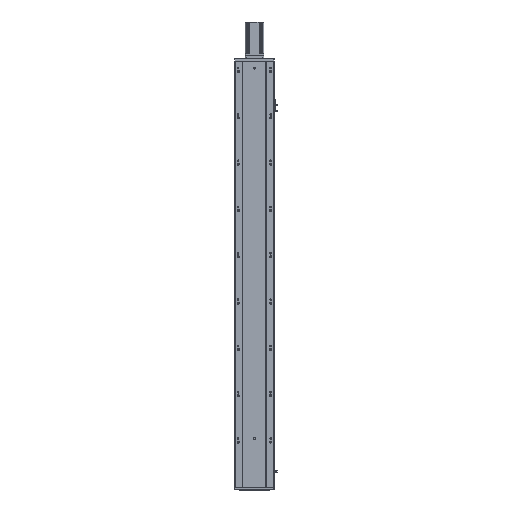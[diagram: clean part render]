
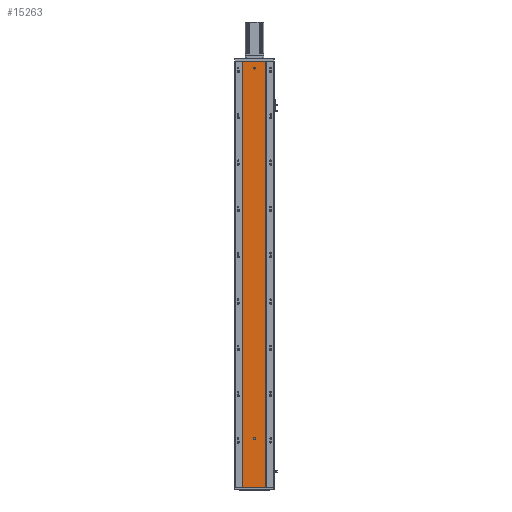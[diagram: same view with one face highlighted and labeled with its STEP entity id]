
A CAD part, front view. The second image highlights one B-rep face of the part: STEP entity #15263.
In plain terms, the highlighted planar face has unit normal (0, -1, 0).
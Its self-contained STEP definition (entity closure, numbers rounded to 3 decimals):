
#11461 = FACE_BOUND ( 'NONE', #25141, .T. ) ;
#11462 = FACE_OUTER_BOUND ( 'NONE', #25145, .T. ) ;
#11505 = FACE_BOUND ( 'NONE', #25086, .T. ) ;
#12235 = CARTESIAN_POINT ( 'NONE',  ( 86.97, 79.476, 1840. ) ) ;
#12675 = CARTESIAN_POINT ( 'NONE',  ( 136.47, 79.476, 1814. ) ) ;
#12686 = CARTESIAN_POINT ( 'NONE',  ( 136.47, 79.476, 206. ) ) ;
#12695 = CARTESIAN_POINT ( 'NONE',  ( 136.47, 79.476, 214. ) ) ;
#12703 = CARTESIAN_POINT ( 'NONE',  ( 136.47, 79.476, 1806. ) ) ;
#15263 = ADVANCED_FACE ( 'NONE', ( #11505, #11461, #11462 ), #41777, .F. ) ;
#15423 = VERTEX_POINT ( 'NONE', #42286 ) ;
#15426 = VERTEX_POINT ( 'NONE', #42368 ) ;
#15461 = VERTEX_POINT ( 'NONE', #42344 ) ;
#21640 = ORIENTED_EDGE ( 'NONE', *, *, #45239, .F. ) ;
#21648 = ORIENTED_EDGE ( 'NONE', *, *, #45173, .F. ) ;
#21652 = ORIENTED_EDGE ( 'NONE', *, *, #45236, .T. ) ;
#21665 = ORIENTED_EDGE ( 'NONE', *, *, #45186, .T. ) ;
#21678 = ORIENTED_EDGE ( 'NONE', *, *, #45197, .F. ) ;
#21696 = ORIENTED_EDGE ( 'NONE', *, *, #43872, .F. ) ;
#21700 = ORIENTED_EDGE ( 'NONE', *, *, #43850, .F. ) ;
#21702 = ORIENTED_EDGE ( 'NONE', *, *, #45161, .F. ) ;
#22483 = AXIS2_PLACEMENT_3D ( 'NONE', #48147, #48156, #48141 ) ;
#22486 = AXIS2_PLACEMENT_3D ( 'NONE', #48269, #48192, #48251 ) ;
#23113 = AXIS2_PLACEMENT_3D ( 'NONE', #54058, #54052, #54073 ) ;
#23126 = AXIS2_PLACEMENT_3D ( 'NONE', #54065, #54071, #54074 ) ;
#23907 = AXIS2_PLACEMENT_3D ( 'NONE', #41808, #41775, #41779 ) ;
#25086 = EDGE_LOOP ( 'NONE', ( #21702, #21700 ) ) ;
#25141 = EDGE_LOOP ( 'NONE', ( #21648, #21696 ) ) ;
#25145 = EDGE_LOOP ( 'NONE', ( #21652, #21678, #21640, #21665 ) ) ;
#25555 = VERTEX_POINT ( 'NONE', #12235 ) ;
#27176 = VERTEX_POINT ( 'NONE', #12675 ) ;
#27179 = VERTEX_POINT ( 'NONE', #12703 ) ;
#27188 = VERTEX_POINT ( 'NONE', #12695 ) ;
#27210 = VERTEX_POINT ( 'NONE', #12686 ) ;
#32275 = CIRCLE ( 'NONE', #23126, 4. ) ;
#32290 = CIRCLE ( 'NONE', #23113, 4. ) ;
#32401 = VECTOR ( 'NONE', #54249, 1000. ) ;
#32415 = LINE ( 'NONE', #54253, #32453 ) ;
#32435 = LINE ( 'NONE', #54242, #32401 ) ;
#32453 = VECTOR ( 'NONE', #54257, 1000. ) ;
#40639 = CIRCLE ( 'NONE', #22483, 4. ) ;
#40707 = CIRCLE ( 'NONE', #22486, 4. ) ;
#41775 = DIRECTION ( 'NONE',  ( 0., 1., 0. ) ) ;
#41777 = PLANE ( 'NONE',  #23907 ) ;
#41779 = DIRECTION ( 'NONE',  ( 0., 0., 1. ) ) ;
#41808 = CARTESIAN_POINT ( 'NONE',  ( 0., 79.476, 1840. ) ) ;
#42286 = CARTESIAN_POINT ( 'NONE',  ( 86.97, 79.476, 0. ) ) ;
#42344 = CARTESIAN_POINT ( 'NONE',  ( 185.97, 79.476, 1840. ) ) ;
#42368 = CARTESIAN_POINT ( 'NONE',  ( 185.97, 79.476, 0. ) ) ;
#43850 = EDGE_CURVE ( 'NONE', #27176, #27179, #40639, .T. ) ;
#43872 = EDGE_CURVE ( 'NONE', #27188, #27210, #40707, .T. ) ;
#45161 = EDGE_CURVE ( 'NONE', #27179, #27176, #32290, .T. ) ;
#45173 = EDGE_CURVE ( 'NONE', #27210, #27188, #32275, .T. ) ;
#45186 = EDGE_CURVE ( 'NONE', #25555, #15423, #53418, .T. ) ;
#45197 = EDGE_CURVE ( 'NONE', #15461, #15426, #53395, .T. ) ;
#45236 = EDGE_CURVE ( 'NONE', #15423, #15426, #32435, .T. ) ;
#45239 = EDGE_CURVE ( 'NONE', #25555, #15461, #32415, .T. ) ;
#48141 = DIRECTION ( 'NONE',  ( 0., 0., -1. ) ) ;
#48147 = CARTESIAN_POINT ( 'NONE',  ( 136.47, 79.476, 1810. ) ) ;
#48156 = DIRECTION ( 'NONE',  ( 0., -1., 0. ) ) ;
#48192 = DIRECTION ( 'NONE',  ( 0., -1., 0. ) ) ;
#48251 = DIRECTION ( 'NONE',  ( 0., 0., -1. ) ) ;
#48269 = CARTESIAN_POINT ( 'NONE',  ( 136.47, 79.476, 210. ) ) ;
#53395 = B_SPLINE_CURVE_WITH_KNOTS ( 'NONE', 3,
 ( #54163, #54146, #54151, #54155 ),
 .UNSPECIFIED., .F., .F.,
 ( 4, 4 ),
 ( 0., 1. ),
 .UNSPECIFIED. ) ;
#53418 = B_SPLINE_CURVE_WITH_KNOTS ( 'NONE', 3,
 ( #54097, #54098, #54127, #54118 ),
 .UNSPECIFIED., .F., .F.,
 ( 4, 4 ),
 ( 0., 1. ),
 .UNSPECIFIED. ) ;
#54052 = DIRECTION ( 'NONE',  ( 0., -1., 0. ) ) ;
#54058 = CARTESIAN_POINT ( 'NONE',  ( 136.47, 79.476, 1810. ) ) ;
#54065 = CARTESIAN_POINT ( 'NONE',  ( 136.47, 79.476, 210. ) ) ;
#54071 = DIRECTION ( 'NONE',  ( 0., -1., 0. ) ) ;
#54073 = DIRECTION ( 'NONE',  ( 0., 0., -1. ) ) ;
#54074 = DIRECTION ( 'NONE',  ( 0., 0., -1. ) ) ;
#54097 = CARTESIAN_POINT ( 'NONE',  ( 86.97, 79.476, 1840. ) ) ;
#54098 = CARTESIAN_POINT ( 'NONE',  ( 86.97, 79.476, 1226.667 ) ) ;
#54118 = CARTESIAN_POINT ( 'NONE',  ( 86.97, 79.476, 0. ) ) ;
#54127 = CARTESIAN_POINT ( 'NONE',  ( 86.97, 79.476, 613.333 ) ) ;
#54146 = CARTESIAN_POINT ( 'NONE',  ( 185.97, 79.476, 1226.667 ) ) ;
#54151 = CARTESIAN_POINT ( 'NONE',  ( 185.97, 79.476, 613.333 ) ) ;
#54155 = CARTESIAN_POINT ( 'NONE',  ( 185.97, 79.476, 0. ) ) ;
#54163 = CARTESIAN_POINT ( 'NONE',  ( 185.97, 79.476, 1840. ) ) ;
#54242 = CARTESIAN_POINT ( 'NONE',  ( 0., 79.476, 0. ) ) ;
#54249 = DIRECTION ( 'NONE',  ( 1., 0., 0. ) ) ;
#54253 = CARTESIAN_POINT ( 'NONE',  ( 0., 79.476, 1840. ) ) ;
#54257 = DIRECTION ( 'NONE',  ( 1., 0., 0. ) ) ;
